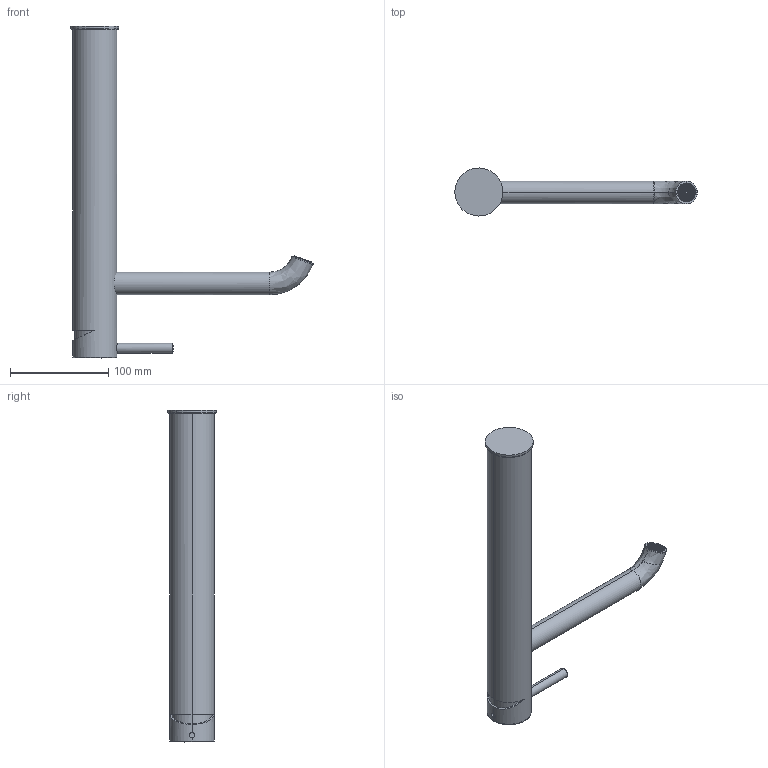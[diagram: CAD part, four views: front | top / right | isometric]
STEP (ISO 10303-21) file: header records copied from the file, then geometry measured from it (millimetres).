
FILE_DESCRIPTION (( 'STEP AP214' ), '1' );
FILE_NAME ('12301810 x architetti.STEP', '2024-09-16T11:31:42', ( '' ), ( '' ), 'SwSTEP 2.0', 'SolidWorks 2020', '' );
FILE_SCHEMA (( 'AUTOMOTIVE_DESIGN' ));
Length unit declared in the file: millimetre
Products named in the file (1): 12301810 x architetti
Bounding box: 246.86 x 48.99 x 338.14 mm (x, y, z)
Volume: 612888.8 mm3; surface area: 79956.2 mm2
Topology: 3 solids, 3 shells, 3942 faces, 11387 edges, 7365 vertices
Faces by surface type: plane 3344, cylinder 433, bspline 147, cone 16, torus 2
Entity records: 186218 total; most frequent: CARTESIAN_POINT 50234, ORIENTED_EDGE 22770, DIRECTION 13730, EDGE_CURVE 11385, VERTEX_POINT 7365, LINE 5232, VECTOR 5232, B_SPLINE_CURVE_WITH_KNOTS 5058
